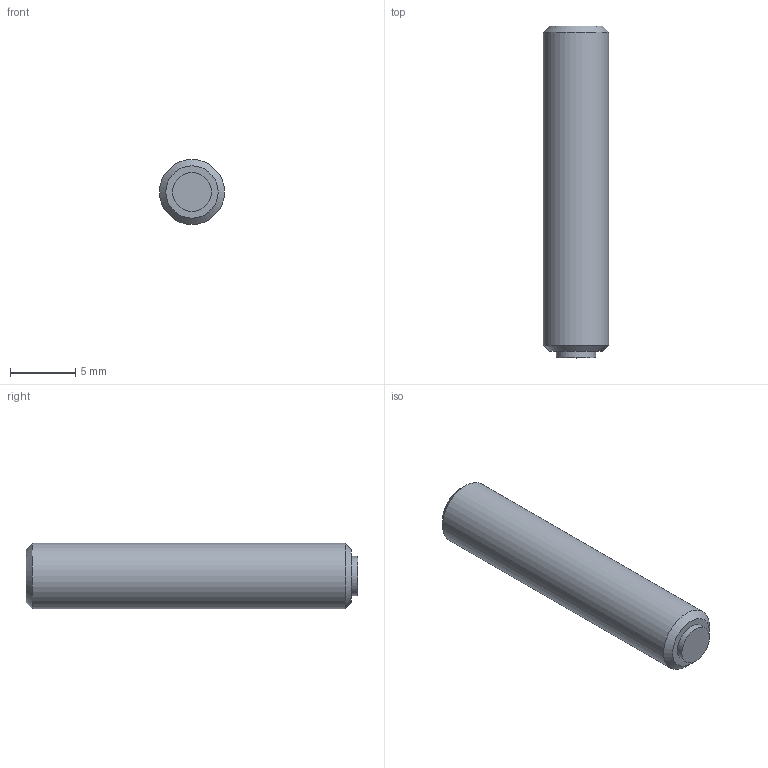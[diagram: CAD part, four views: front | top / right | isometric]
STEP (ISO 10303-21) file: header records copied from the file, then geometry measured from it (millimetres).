
FILE_DESCRIPTION( ( 'STEP AP203' ), '1' );
FILE_NAME( 'C:/Temp/Ganter_Step_05_03_2020/data/3_2/gn913_3/Grub screw GN 913.3-M5-25-MS.stp', '2020-03-13T05:35:47', ( 'License CC BY-ND 4.0' ), ( 'CADENAS' ), ' ', 'PARTsolutions', ' ' );
FILE_SCHEMA( ( 'CONFIG_CONTROL_DESIGN' ) );
Length unit declared in the file: millimetre
Products named in the file (1): _Grub screw GN 913.3-M5-25-MS
Bounding box: 5 x 25.5 x 5 mm (x, y, z)
Volume: 474.6 mm3; surface area: 453 mm2
Topology: 1 solids, 1 shells, 14 faces, 28 edges, 18 vertices
Faces by surface type: plane 10, cylinder 2, cone 2
Full cylindrical faces by diameter (mm): 3 x1, 5 x1
Entity records: 386 total; most frequent: DIRECTION 60, CARTESIAN_POINT 57, ORIENTED_EDGE 48, EDGE_CURVE 24, AXIS2_PLACEMENT_3D 21, EDGE_LOOP 20, VERTEX_POINT 18, LINE 18
